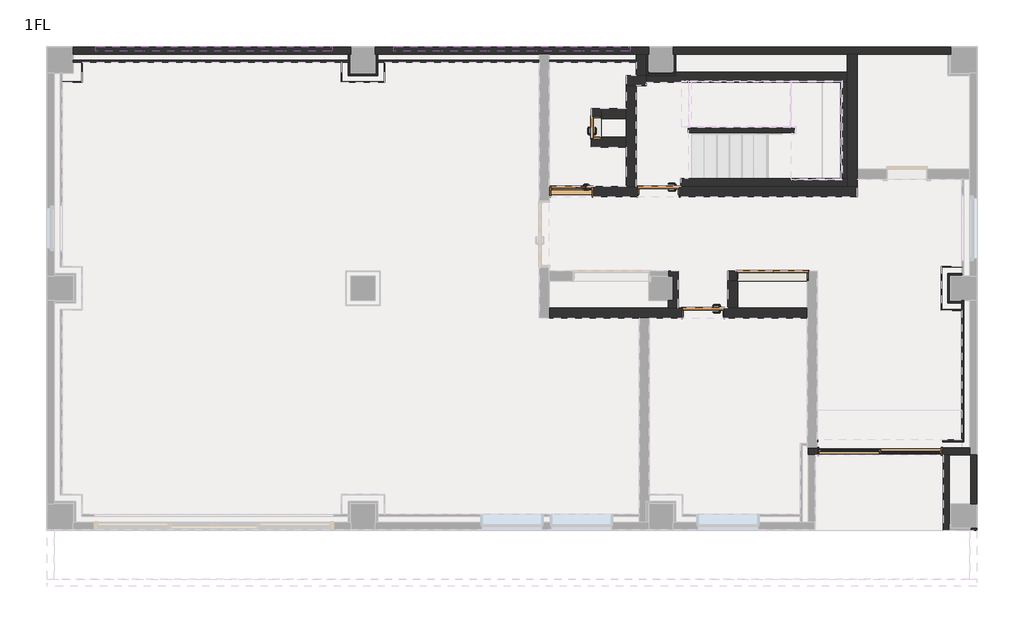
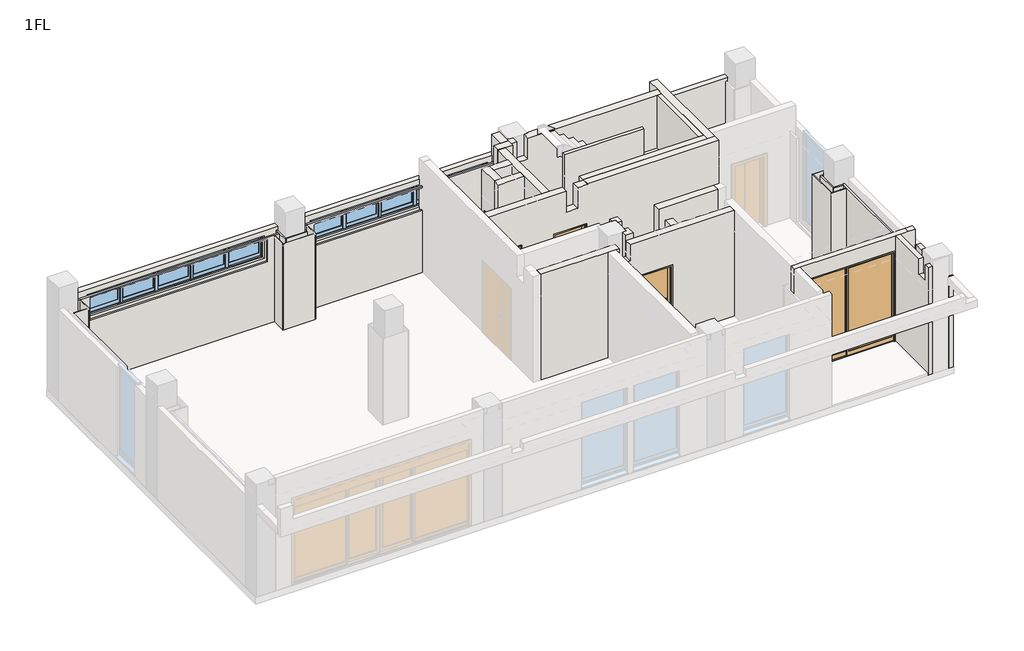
# One storey, part 2 of 3: 42 walls, 6 doors, 2 windows.
"""IFC4 building model written with IfcOpenShell, lengths in millimetres."""

from ifc_helpers import new_model, si_unit, frame, origin, place, context, project, spatial, polyline, outline, extrude, faceted_brep, transform, mapped, element, save
from components import door_bff3f04c, door_5d5221cc, door_e94faea5, door_b2e5d67d, door_75bfbb1d, window_ed3df4e0

model = new_model("IFC4")

# Units and contexts
model_context = context("Model", 3, world=origin())
ifc_project = project(units=[si_unit("LENGTHUNIT", "METRE", prefix="MILLI")], contexts=[model_context])

# Site, building, storey
site = spatial("IfcSite", under=ifc_project)
building = spatial("IfcBuilding", under=site)
storey = spatial("IfcBuildingStorey", under=building, Name="1FL", Elevation=100.0)

# Doors
placement = place(None, origin())
door_shape = door_bff3f04c(model_context)
element("IfcDoor", 1, ObjectType="140_片開扉_スリットガラリ付 : SD3_H2000W800", at=placement, inside=storey, context=model_context, shape_type="MappedRepresentation", body=[
    mapped(door_shape, transform((10290.0, 6540.0, 100.0), x_axis=(-1.0, 0.0, 0.0), y_axis=(0.0, -1.0, 0.0), z_axis=(0.0, 0.0, 1.0))),
])
door_2_shape = door_5d5221cc(model_context)
element("IfcDoor", 2, ObjectType="B1 両開 フラッシュ_A1枠 : SD6-H2000W1400", at=placement, inside=storey, context=model_context, shape_type="MappedRepresentation", body=[
    mapped(door_2_shape, transform((14340.0, 4840.0, 100.0), x_axis=(1.0, 0.0, 0.0), y_axis=(0.0, 1.0, 0.0), z_axis=(0.0, 0.0, 1.0))),
])
door_3_shape = door_e94faea5(model_context)
element("IfcDoor", 3, ObjectType="A1 片開 フラッシュ_A1枠 : SD4_H2000W800", at=placement, inside=storey, context=model_context, shape_type="MappedRepresentation", body=[
    mapped(door_3_shape, transform((12040.0, 6540.0, 100.0), x_axis=(1.0, 0.0, 0.0), y_axis=(0.0, 1.0, 0.0), z_axis=(0.0, 0.0, 1.0))),
])
door_4_shape = door_b2e5d67d(model_context)
element("IfcDoor", 4, ObjectType="A1 片開 フラッシュ_A1枠 : SD4_H2000W400", at=placement, inside=storey, context=model_context, shape_type="MappedRepresentation", body=[
    mapped(door_4_shape, transform((10790.0, 7835.0, 100.0), x_axis=(0.0, -1.0, 0.0), y_axis=(1.0, 0.0, 0.0), z_axis=(0.0, 0.0, 1.0))),
])
element("IfcDoor", 5, ObjectType="A1 片開 フラッシュ_A1枠 : SD2_H2000W800", at=placement, inside=storey, context=model_context, shape_type="MappedRepresentation", body=[
    mapped(door_3_shape, transform((12940.0, 4090.0, 100.0), x_axis=(1.0, 0.0, 0.0), y_axis=(0.0, 1.0, 0.0), z_axis=(0.0, 0.0, 1.0))),
])
door_5_shape = door_75bfbb1d(model_context)
element("IfcDoor", 6, ObjectType="C_引違扉_フラッシュ : SSD1-H2550W2470", at=placement, inside=storey, context=model_context, shape_type="MappedRepresentation", body=[
    mapped(door_5_shape, transform((16505.0, 1302.5, 100.0), x_axis=(-1.0, 0.0, 0.0), y_axis=(0.0, -1.0, 0.0), z_axis=(0.0, 0.0, 1.0))),
])

# Walls
element("IfcWall", 7, ObjectType="•_RC120+押出法ポリスチレンフォーム1種 t25", at=placement, inside=storey, context=model_context, shape_type="Brep", body=[
    faceted_brep([(17930.0, 9305.0, 50.0), (17930.0, 9305.0, 2650.0), (12340.0, 9305.0, 2650.0), (12340.0, 9305.0, 50.0), (12359.9998932, 9305.0, 50.0), (12389.9998932, 9305.0, 50.0), (15840.0, 9305.0, 50.0), (16040.0, 9305.0, 50.0), (17869.9999426, 9305.0, 50.0), (17899.9999426, 9305.0, 50.0), (17930.0, 9450.0, 2650.0), (17930.0, 9450.0, 50.0), (12340.0, 9450.0, 50.0), (12340.0, 9450.0, 2650.0)], [[[0, 1, 2, 3, 4, 5, 6, 7, 8, 9]], [[10, 11, 12, 13]], [[11, 0, 9, 8, 7, 6, 5, 4, 3, 12]], [[1, 10, 13, 2]], [[1, 0, 11, 10]], [[3, 2, 13, 12]]]),
    faceted_brep([(5840.0, 9305.0, 50.0), (5840.0, 9305.0, 2650.0), (250.0, 9305.0, 2650.0), (250.0, 9305.0, 50.0), (5789.9995306, 9305.0, 50.0), (5819.9995306, 9305.0, 50.0), (5470.0, 9305.0, 2500.0), (5470.0, 9305.0, 1865.0), (710.0, 9305.0, 1865.0), (710.0, 9305.0, 2500.0), (5840.0, 9450.0, 2650.0), (5840.0, 9450.0, 50.0), (250.0, 9450.0, 50.0), (250.0, 9450.0, 2650.0), (5470.0, 9450.0, 1830.0), (5470.0, 9450.0, 2500.0), (710.0, 9450.0, 2500.0), (710.0, 9450.0, 1830.0), (5470.0, 9370.0, 1830.0), (5470.0, 9370.0, 1865.0), (710.0, 9370.0, 1865.0), (710.0, 9370.0, 1830.0)], [[[0, 1, 2, 3, 4, 5], [6, 7, 8, 9]], [[10, 11, 12, 13], [14, 15, 16, 17]], [[11, 0, 5, 4, 3, 12]], [[1, 10, 13, 2]], [[1, 0, 11, 10]], [[15, 14, 18, 19, 7, 6]], [[8, 20, 21, 17, 16, 9]], [[7, 19, 20, 8]], [[15, 6, 9, 16]], [[18, 14, 17, 21]], [[19, 18, 21, 20]], [[3, 2, 13, 12]]]),
    faceted_brep([(6340.0, 9305.0, 2650.0), (6340.0, 9305.0, 50.0), (6359.9999426, 9305.0, 50.0), (6389.9999426, 9305.0, 50.0), (9640.0, 9305.0, 50.0), (9840.0, 9305.0, 50.0), (11590.452236, 9305.0, 50.0), (11790.452236, 9305.0, 50.0), (11820.452236, 9305.0, 50.0), (11840.0, 9305.0, 50.0), (11840.0, 9305.0, 2650.0), (11470.0, 9305.0, 2500.0), (11470.0, 9305.0, 1865.0), (6710.0, 9305.0, 1865.0), (6710.0, 9305.0, 2500.0), (6340.0, 9450.0, 50.0), (6340.0, 9450.0, 2650.0), (11840.0, 9450.0, 2650.0), (11840.0, 9450.0, 50.0), (11470.0, 9450.0, 1830.0), (11470.0, 9450.0, 2500.0), (6710.0, 9450.0, 2500.0), (6710.0, 9450.0, 1830.0), (11470.0, 9370.0, 1830.0), (11470.0, 9370.0, 1865.0), (6710.0, 9370.0, 1865.0), (6710.0, 9370.0, 1830.0)], [[[0, 1, 2, 3, 4, 5, 6, 7, 8, 9, 10], [11, 12, 13, 14]], [[15, 16, 17, 18], [19, 20, 21, 22]], [[1, 15, 18, 9, 8, 7, 6, 5, 4, 3, 2]], [[16, 0, 10, 17]], [[20, 19, 23, 24, 12, 11]], [[13, 25, 26, 22, 21, 14]], [[12, 24, 25, 13]], [[20, 11, 14, 21]], [[23, 19, 22, 26]], [[24, 23, 26, 25]], [[1, 0, 16, 15]], [[10, 9, 18, 17]]]),
])
element("IfcWall", 8, ObjectType="•_RC120+押出法ポリスチレンフォーム1種 t25", at=placement, inside=storey, context=model_context, shape_type="Brep", body=[
    faceted_brep([(18305.0, 1375.0, 50.0), (15240.0, 1375.0, 50.0), (15055.0, 1375.0, 50.0), (15055.0, 1375.0, 3100.0), (15240.0, 1375.0, 3100.0), (18125.0, 1375.0, 3100.0), (18305.0, 1375.0, 3100.0), (17765.0, 1375.0, 2675.0), (15245.0, 1375.0, 2675.0), (15245.0, 1375.0, 85.0), (17765.0, 1375.0, 85.0), (18305.0, 1230.0, 50.0), (18305.0, 1230.0, 2650.0), (18305.0, 1230.0, 3100.0), (18125.0, 1230.0, 3100.0), (17900.0, 1230.0, 3100.0), (17780.0, 1230.0, 3100.0), (15200.0, 1230.0, 3100.0), (15055.0, 1230.0, 3100.0), (15055.0, 1230.0, 50.0), (15200.0, 1230.0, 50.0), (17780.0, 1230.0, 50.0), (17900.0, 1230.0, 50.0), (17765.0, 1230.0, 2675.0), (17765.0, 1230.0, 85.0), (15245.0, 1230.0, 85.0), (15245.0, 1230.0, 2675.0)], [[[0, 1, 2, 3, 4, 5, 6], [7, 8, 9, 10]], [[11, 12, 13, 14, 15, 16, 17, 18, 19, 20, 21, 22], [23, 24, 25, 26]], [[2, 1, 0, 11, 22, 21, 20, 19]], [[0, 6, 13, 12, 11]], [[3, 2, 19, 18]], [[6, 5, 14, 13]], [[5, 4, 3, 18, 17, 16, 15, 14]], [[24, 23, 7, 10]], [[25, 24, 10, 9]], [[26, 25, 9, 8]], [[23, 26, 8, 7]]]),
])
element("IfcWall", 9, ObjectType="•ALC100+20", at=placement, inside=storey, context=model_context, shape_type="Brep", body=[
    faceted_brep([(18330.0, 1230.0, 2650.0), (18330.0, 1230.0, 50.0), (18330.0, 250.0, 50.0), (18330.0, 250.0, 2650.0), (18450.0, 1230.0, 50.0), (18450.0, 1230.0, 2650.0), (18450.0, 250.0, 2650.0), (18450.0, 250.0, 50.0)], [[[0, 1, 2, 3]], [[4, 5, 6, 7]], [[1, 4, 7, 2]], [[5, 0, 3, 6]], [[1, 0, 5, 4]], [[3, 2, 7, 6]]]),
    faceted_brep([(18330.0, -284.9999682, 50.0), (18330.0, -284.9999682, 2650.0), (18330.0, -250.0, 2650.0), (18330.0, -250.0, 50.0), (18450.0, -284.9999682, 2650.0), (18450.0, -284.9999682, 2450.0), (18450.0, -284.9999682, 50.0), (18450.0, -250.0, 50.0), (18450.0, -250.0, 2650.0)], [[[0, 1, 2, 3]], [[4, 5, 6, 7, 8]], [[6, 0, 3, 7]], [[1, 4, 8, 2]], [[0, 6, 5, 4, 1]], [[3, 2, 8, 7]]]),
])
element("IfcWall", 10, ObjectType="•ALC100+20", at=placement, inside=storey, context=model_context, shape_type="Brep", body=[
    faceted_brep([(17780.0, 1230.0, 50.0), (17780.0, -284.9999682, 50.0), (17780.0, -284.9999682, 3100.0), (17780.0, -150.0, 3100.0), (17780.0, -150.0, 2650.0), (17780.0, 150.0, 2650.0), (17780.0, 150.0, 3100.0), (17780.0, 1230.0, 3100.0), (17900.0, -284.9999682, 50.0), (17900.0, -164.9999682, 50.0), (17900.0, 1230.0, 50.0), (17900.0, 1230.0, 3100.0), (17900.0, 150.0, 3100.0), (17900.0, 150.0, 2650.0), (17900.0, -150.0, 2650.0), (17900.0, -150.0, 3100.0), (17900.0, -284.9999682, 3100.0)], [[[0, 1, 2, 3, 4, 5, 6, 7]], [[8, 9, 10, 11, 12, 13, 14, 15, 16]], [[1, 0, 10, 9, 8]], [[11, 7, 6, 12]], [[2, 16, 15, 3]], [[0, 7, 11, 10]], [[2, 1, 8, 16]], [[5, 13, 12, 6]], [[14, 4, 3, 15]], [[13, 5, 4, 14]]]),
])
element("IfcWall", 11, ObjectType="•RC30+12.5", at=placement, inside=storey, context=model_context, shape_type="Brep", body=[
    faceted_brep([(250.0, 9147.5, 50.0), (426.0, 9147.5, 50.0), (438.5, 9147.5, 50.0), (5651.5, 9147.5, 50.0), (5664.0, 9147.5, 50.0), (5790.0000498, 9147.5, 50.0), (5790.0000498, 9147.5, 2550.0), (5664.0, 9147.5, 2550.0), (5651.5, 9147.5, 2550.0), (438.5, 9147.5, 2550.0), (426.0, 9147.5, 2550.0), (250.0, 9147.5, 2550.0), (5470.0, 9147.5, 2500.0), (5470.0, 9147.5, 1865.0), (710.0, 9147.5, 1865.0), (710.0, 9147.5, 2500.0), (5789.9999097, 9190.0, 50.0), (250.0, 9190.0, 50.0), (250.0, 9190.0, 2550.0), (5789.9999097, 9190.0, 2550.0), (5470.0, 9190.0, 1865.0), (5470.0, 9190.0, 2500.0), (710.0, 9190.0, 2500.0), (710.0, 9190.0, 1865.0)], [[[0, 1, 2, 3, 4, 5, 6, 7, 8, 9, 10, 11], [12, 13, 14, 15]], [[16, 17, 18, 19], [20, 21, 22, 23]], [[5, 4, 3, 2, 1, 0, 17, 16]], [[11, 10, 9, 8, 7, 6, 19, 18]], [[0, 11, 18, 17]], [[6, 5, 16, 19]], [[12, 21, 20, 13]], [[14, 23, 22, 15]], [[13, 20, 23, 14]], [[21, 12, 15, 22]]]),
])
element("IfcWall", 12, ObjectType="•RC30+12.5", at=placement, inside=storey, context=model_context, shape_type="Brep", body=[
    faceted_brep([(6389.9999426, 9147.5, 50.0), (6516.0000044, 9147.5, 50.0), (6528.5000044, 9147.5, 50.0), (9640.0, 9147.5, 50.0), (9640.0, 9147.5, 1865.0), (6710.0, 9147.5, 1865.0), (6710.0, 9147.5, 2500.0), (9640.0, 9147.5, 2500.0), (9640.0, 9147.5, 2550.0), (6528.5000044, 9147.5, 2550.0), (6516.0000044, 9147.5, 2550.0), (6389.9999426, 9147.5, 2550.0), (9640.0, 9190.0, 50.0), (6389.9999426, 9190.0, 50.0), (6389.9999426, 9190.0, 2550.0), (9640.0, 9190.0, 2550.0), (9640.0, 9190.0, 2500.0), (6710.0, 9190.0, 2500.0), (6710.0, 9190.0, 1865.0), (9640.0, 9190.0, 1865.0)], [[[0, 1, 2, 3, 4, 5, 6, 7, 8, 9, 10, 11]], [[12, 13, 14, 15, 16, 17, 18, 19]], [[3, 2, 1, 0, 13, 12]], [[11, 10, 9, 8, 15, 14]], [[15, 8, 7, 16]], [[3, 12, 19, 4]], [[0, 11, 14, 13]], [[5, 18, 17, 6]], [[18, 5, 4, 19]], [[6, 17, 16, 7]]]),
])
element("IfcWall", 13, ObjectType="•RC30+12.5", at=placement, inside=storey, context=model_context, shape_type="Brep", body=[
    faceted_brep([(18147.5, 4339.9999905, 50.0), (18147.5, 4320.0000823, 50.0), (18147.5, 4290.0000823, 50.0), (18147.5, 4160.0, 50.0), (18147.5, 4147.5, 50.0), (18147.5, 1532.5, 50.0), (18147.5, 1490.0, 50.0), (18147.5, 1490.0, 2550.0), (18147.5, 1532.5, 2550.0), (18147.5, 4147.5, 2550.0), (18147.5, 4160.0, 2550.0), (18147.5, 4290.0000823, 2550.0), (18147.5, 4320.0000823, 2550.0), (18147.5, 4339.9999905, 2550.0), (18190.0, 4339.9999905, 50.0), (18190.0, 4339.9999905, 2550.0), (18190.0, 1490.0, 2550.0), (18190.0, 1490.0, 50.0)], [[[0, 1, 2, 3, 4, 5, 6, 7, 8, 9, 10, 11, 12, 13]], [[14, 15, 16, 17]], [[6, 5, 4, 3, 2, 1, 0, 14, 17]], [[13, 12, 11, 10, 9, 8, 7, 16, 15]], [[0, 13, 15, 14]], [[7, 6, 17, 16]]]),
])
element("IfcWall", 14, ObjectType="•RC30+12.5", at=placement, inside=storey, context=model_context, shape_type="SweptSolid", body=[
    extrude(outline(polyline([(50.0, 15240.0), (50.0, 18147.5), (2550.0, 18147.5), (2550.0, 17765.0), (85.0, 17765.0), (85.0, 15245.0), (2550.0, 15245.0), (2550.0, 15240.0), (50.0, 15240.0)])), frame((0.0, 1490.0, 0.0), z_axis=(0.0, 1.0, 0.0), x_axis=(0.0, 0.0, 1.0)), (0.0, 0.0, 1.0), 42.5),
])
element("IfcWall", 15, ObjectType="•RC200", at=placement, inside=storey, context=model_context, shape_type="Brep", body=[
    faceted_brep([(12440.0, 4190.0, 50.0), (12440.0, 4939.9999966, 50.0), (12440.0, 4939.9999966, 3250.0), (12440.0, 4740.0, 3250.0), (12440.0, 4740.0, 2650.0), (12440.0, 4440.0, 2650.0), (12440.0, 4440.0, 3250.0), (12440.0, 4190.0, 3250.0), (12240.0, 4939.9999966, 3250.0), (12240.0, 4939.9999966, 2650.0), (12240.0, 4939.9999966, 50.0), (12240.0, 4840.0, 50.0), (12240.0, 4840.0, 2650.0), (12240.0, 4840.0, 3250.0), (12240.0, 4190.0, 3250.0), (12240.0, 4340.0, 3250.0), (12240.0, 4340.0, 50.0), (12240.0, 4190.0, 50.0), (12240.0, 4190.0, 2650.0), (12240.0, 4190.0, 3100.0), (12340.0, 4340.0, 50.0), (12340.0, 4840.0, 50.0), (12340.0, 4840.0, 3250.0), (12340.0, 4740.0, 3250.0), (12340.0, 4440.0, 3250.0), (12340.0, 4340.0, 3250.0), (12340.0, 4440.0, 2650.0), (12340.0, 4740.0, 2650.0)], [[[0, 1, 2, 3, 4, 5, 6, 7]], [[8, 9, 10, 11, 12, 13]], [[14, 15, 16, 17, 18, 19]], [[1, 0, 17, 16, 20, 21, 11, 10]], [[2, 8, 13, 22, 23, 3]], [[15, 14, 7, 6, 24, 25]], [[2, 1, 10, 9, 8]], [[21, 22, 13, 12, 11]], [[25, 20, 16, 15]], [[22, 21, 20, 25, 24, 26, 27, 23]], [[0, 7, 14, 19, 18, 17]], [[27, 4, 3, 23]], [[5, 26, 24, 6]], [[4, 27, 26, 5]]]),
])
element("IfcWall", 16, ObjectType="•RC200", at=placement, inside=storey, context=model_context, shape_type="Brep", body=[
    faceted_brep([(13367.5, 3990.0, 2127.5), (13367.5, 3990.0, 100.0), (13380.0, 3990.0, 100.0), (13380.0, 3990.0, 50.0), (15040.0, 3990.0, 50.0), (15040.0, 3990.0, 100.0), (15040.0, 3990.0, 3100.0), (12240.0, 3990.0, 3100.0), (12240.0, 3990.0, 2650.0), (11940.0, 3990.0, 2650.0), (11940.0, 3990.0, 3100.0), (11849.9999991, 3990.0, 3100.0), (11649.9999991, 3990.0, 3100.0), (9840.0, 3990.0, 3100.0), (9840.0, 3990.0, 50.0), (11649.9999991, 3990.0, 50.0), (11849.9999991, 3990.0, 50.0), (12500.0, 3990.0, 50.0), (12500.0, 3990.0, 100.0), (12512.5, 3990.0, 100.0), (12512.5, 3990.0, 2127.5), (13367.5, 4190.0, 100.0), (13367.5, 4190.0, 2127.5), (12512.5, 4190.0, 2127.5), (12512.5, 4190.0, 100.0), (12500.0, 4190.0, 100.0), (12500.0, 4190.0, 50.0), (12440.0, 4190.0, 50.0), (12240.0, 4190.0, 50.0), (9840.0, 4190.0, 50.0), (9840.0, 4190.0, 3100.0), (11940.0, 4190.0, 3100.0), (11940.0, 4190.0, 2650.0), (12240.0, 4190.0, 2650.0), (12240.0, 4190.0, 3100.0), (13440.0, 4190.0, 3100.0), (13640.0, 4190.0, 3100.0), (15040.0, 4190.0, 3100.0), (15040.0, 4190.0, 50.0), (13640.0, 4190.0, 50.0), (13440.0, 4190.0, 50.0), (13380.0, 4190.0, 50.0), (13380.0, 4190.0, 100.0)], [[[0, 1, 2, 3, 4, 5, 6, 7, 8, 9, 10, 11, 12, 13, 14, 15, 16, 17, 18, 19, 20]], [[21, 22, 23, 24, 25, 26, 27, 28, 29, 30, 31, 32, 33, 34, 35, 36, 37, 38, 39, 40, 41, 42]], [[14, 29, 28, 27, 26, 17, 16, 15]], [[38, 4, 3, 41, 40, 39]], [[29, 14, 13, 30]], [[4, 38, 37, 6, 5]], [[1, 0, 22, 21]], [[20, 19, 24, 23]], [[0, 20, 23, 22]], [[18, 25, 24, 19]], [[42, 2, 1, 21]], [[25, 18, 17, 26]], [[2, 42, 41, 3]], [[9, 32, 31, 10]], [[33, 8, 7, 34]], [[32, 9, 8, 33]], [[7, 6, 37, 36, 35, 34]], [[13, 12, 11, 10, 31, 30]]]),
])
element("IfcWall", 17, ObjectType="•RC200", at=placement, inside=storey, context=model_context, shape_type="Brep", body=[
    faceted_brep([(15040.0, 4940.0, 50.0), (13440.0, 4940.0, 50.0), (13440.0, 4940.0, 3240.0), (15040.0, 4940.0, 3240.0), (15040.0, 4940.0, 2127.5), (13612.5, 4940.0, 2127.5), (13612.5, 4940.0, 100.0), (15040.0, 4940.0, 100.0), (13440.0, 4740.0, 50.0), (13640.0, 4740.0, 50.0), (15040.0, 4740.0, 50.0), (15040.0, 4740.0, 100.0), (13612.5, 4740.0, 100.0), (13612.5, 4740.0, 2127.5), (15040.0, 4740.0, 2127.5), (15040.0, 4740.0, 2650.0), (15040.0, 4740.0, 3240.0), (13440.0, 4740.0, 3240.0), (13440.0, 4740.0, 2650.0)], [[[0, 1, 2, 3, 4, 5, 6, 7]], [[8, 9, 10, 11, 12, 13, 14, 15, 16, 17, 18]], [[1, 0, 10, 9, 8]], [[3, 2, 17, 16]], [[3, 16, 15, 14, 4]], [[10, 0, 7, 11]], [[2, 1, 8, 18, 17]], [[6, 12, 11, 7]], [[12, 6, 5, 13]], [[13, 5, 4, 14]]]),
])
element("IfcWall", 18, ObjectType="•RC200", at=placement, inside=storey, context=model_context, shape_type="SweptSolid", body=[
    extrude(outline(polyline([(4740.0, 50.0), (4190.0, 50.0), (4190.0, 3100.0), (4440.0, 3100.0), (4440.0, 2650.0), (4740.0, 2650.0), (4740.0, 50.0)])), frame((13440.0, 0.0, 0.0), z_axis=(1.0, 0.0, 0.0), x_axis=(0.0, 1.0, 0.0)), (0.0, 0.0, 1.0), 200.0),
])
element("IfcWall", 19, ObjectType="•RC200", at=placement, inside=storey, context=model_context, shape_type="Brep", body=[
    faceted_brep([(9850.0, 6440.0, 2140.0), (10730.0, 6440.0, 2140.0), (10730.0, 6440.0, 100.0), (10730.0, 6440.0, 85.0), (10705.0, 6440.0, 85.0), (10705.0, 6440.0, 50.0), (11625.0, 6440.0, 50.0), (11625.0, 6440.0, 100.0), (11612.5, 6440.0, 100.0), (11612.5, 6440.0, 2127.5), (12467.5, 6440.0, 2127.5), (12467.5, 6440.0, 100.0), (12455.0, 6440.0, 100.0), (12455.0, 6440.0, 50.0), (16040.0, 6440.0, 50.0), (16040.0, 6440.0, 100.0), (16040.0, 6440.0, 3240.0), (16040.0, 6440.0, 3250.0), (12512.5, 6440.0, 3250.0), (12512.5, 6440.0, 3240.0), (12240.0, 6440.0, 3240.0), (12240.0, 6440.0, 2650.0), (11940.0, 6440.0, 2650.0), (11940.0, 6440.0, 3240.0), (9840.0, 6440.0, 3240.0), (9840.0, 6440.0, 100.0), (9850.0, 6440.0, 100.0), (16040.0, 6640.0, 50.0), (15840.0, 6640.0, 50.0), (11590.0000045, 6640.0, 50.0), (11390.0000045, 6640.0, 50.0), (9840.0, 6640.0, 50.0), (9840.0, 6640.0, 3240.0), (11390.0000045, 6640.0, 3240.0), (11590.0000045, 6640.0, 3240.0), (11940.0, 6640.0, 3240.0), (11940.0, 6640.0, 2650.0), (12240.0, 6640.0, 2650.0), (12240.0, 6640.0, 3240.0), (12512.5, 6640.0, 3240.0), (12512.5, 6640.0, 3250.0), (15840.0, 6640.0, 3250.0), (16040.0, 6640.0, 3250.0), (16040.0, 6640.0, 3240.0), (16040.0, 6640.0, 100.0), (10730.0, 6640.0, 85.0), (10730.0, 6640.0, 2140.0), (9850.0, 6640.0, 2140.0), (9850.0, 6640.0, 85.0), (12467.5, 6640.0, 100.0), (12467.5, 6640.0, 2127.5), (11612.5, 6640.0, 2127.5), (11612.5, 6640.0, 100.0), (12455.0, 6475.0, 50.0), (12440.0, 6475.0, 50.0), (12440.0, 6605.0, 50.0), (11640.0, 6605.0, 50.0), (11640.0, 6475.0, 50.0), (11625.0, 6475.0, 50.0), (10705.0, 6480.0, 50.0), (9840.0, 6480.0, 50.0), (9840.0, 6480.0, 100.0), (9850.0, 6480.0, 85.0), (10705.0, 6480.0, 85.0), (9850.0, 6480.0, 100.0), (11625.0, 6475.0, 100.0), (11640.0, 6475.0, 100.0), (11640.0, 6605.0, 100.0), (12440.0, 6605.0, 100.0), (12440.0, 6475.0, 100.0), (12455.0, 6475.0, 100.0)], [[[0, 1, 2, 3, 4, 5, 6, 7, 8, 9, 10, 11, 12, 13, 14, 15, 16, 17, 18, 19, 20, 21, 22, 23, 24, 25, 26]], [[27, 28, 29, 30, 31, 32, 33, 34, 35, 36, 37, 38, 39, 40, 41, 42, 43, 44], [45, 46, 47, 48], [49, 50, 51, 52]], [[31, 30, 29, 28, 27, 14, 13, 53, 54, 55, 56, 57, 58, 6, 5, 59, 60]], [[17, 42, 41, 40, 18]], [[14, 27, 44, 43, 42, 17, 16, 15]], [[60, 61, 25, 24, 32, 31]], [[46, 45, 3, 2, 1]], [[45, 48, 62, 63, 4, 3]], [[48, 47, 0, 26, 64, 62]], [[1, 0, 47, 46]], [[11, 10, 50, 49]], [[49, 52, 8, 7, 65, 66, 67, 68, 69, 70, 12, 11]], [[9, 8, 52, 51]], [[10, 9, 51, 50]], [[61, 64, 26, 25]], [[64, 61, 60, 59, 63, 62]], [[58, 65, 7, 6]], [[65, 58, 57, 66]], [[66, 57, 56, 67]], [[67, 56, 55, 68]], [[68, 55, 54, 69]], [[69, 54, 53, 70]], [[70, 53, 13, 12]], [[63, 59, 5, 4]], [[22, 36, 35, 23]], [[37, 21, 20, 38]], [[36, 22, 21, 37]], [[24, 23, 35, 34, 33, 32]], [[19, 39, 38, 20]], [[39, 19, 18, 40]]]),
])
element("IfcWall", 20, ObjectType="•RC200", at=placement, inside=storey, context=model_context, shape_type="Brep", body=[
    faceted_brep([(16040.0, 6640.0, 50.0), (16040.0, 6790.0000027, 50.0), (16040.0, 6990.0000027, 50.0), (16040.0, 9305.0, 50.0), (16040.0, 9305.0, 3250.0), (16040.0, 6640.0, 3250.0), (15840.0, 6640.0, 50.0), (15840.0, 6640.0, 3250.0), (15840.0, 6804.5, 3250.0), (15840.0, 8747.5, 3250.0), (15840.0, 8947.5, 3250.0), (15840.0, 9305.0, 3250.0), (15840.0, 9305.0, 50.0), (15840.0, 8947.5, 50.0), (15840.0, 8747.5, 50.0), (15840.0, 6804.5, 50.0)], [[[0, 1, 2, 3, 4, 5]], [[6, 7, 8, 9, 10, 11, 12, 13, 14, 15]], [[3, 2, 1, 0, 6, 15, 14, 13, 12]], [[5, 4, 11, 10, 9, 8, 7]], [[0, 5, 7, 6]], [[4, 3, 12, 11]]]),
])
element("IfcWall", 21, ObjectType="•RC200", at=placement, inside=storey, context=model_context, shape_type="Brep", body=[
    faceted_brep([(11590.0000045, 6640.0, 50.0), (11590.0000045, 8680.0, 50.0), (11590.0000045, 8680.0, 3240.0), (11590.0000045, 6640.0, 3240.0), (11390.0000045, 8680.0, 50.0), (11390.0000045, 8210.0, 50.0), (11390.0000045, 8010.0, 50.0), (11390.0000045, 7640.0, 50.0), (11390.0000045, 7440.0, 50.0), (11390.0000045, 6640.0, 50.0), (11390.0000045, 6640.0, 3240.0), (11390.0000045, 8680.0, 3240.0)], [[[0, 1, 2, 3]], [[4, 5, 6, 7, 8, 9, 10, 11]], [[1, 0, 9, 8, 7, 6, 5, 4]], [[9, 0, 3, 10]], [[1, 4, 11, 2]], [[3, 2, 11, 10]]]),
])
element("IfcWall", 22, ObjectType="•RC200", at=placement, inside=storey, context=model_context, shape_type="Brep", body=[
    faceted_brep([(11390.0000045, 8680.0, 50.0), (11590.0000045, 8680.0, 50.0), (11790.452236, 8680.0, 50.0), (11790.452236, 8680.0, 3250.0), (11390.0000045, 8680.0, 3250.0), (11390.0000045, 8680.0, 3240.0), (11390.0000045, 8880.0, 50.0), (11390.0000045, 8880.0, 3250.0), (11590.452236, 8880.0, 3250.0), (11790.452236, 8880.0, 3250.0), (11790.452236, 8880.0, 50.0), (11590.452236, 8880.0, 50.0), (11790.452236, 8747.5, 50.0), (11790.452236, 8747.5, 3250.0)], [[[0, 1, 2, 3, 4, 5]], [[6, 7, 8, 9, 10, 11]], [[2, 1, 0, 6, 11, 10, 12]], [[4, 3, 13, 9, 8, 7]], [[0, 5, 4, 7, 6]], [[3, 2, 12, 10, 9, 13]]]),
])
element("IfcWall", 23, ObjectType="•t=30mm", at=placement, inside=storey, context=model_context, shape_type="Brep", body=[
    faceted_brep([(11790.452236, 9305.0, 50.0), (11790.452236, 8880.0001317, 50.0), (11790.452236, 8880.0001317, 2550.0), (11790.452236, 9305.0, 2550.0), (11820.452236, 9305.0, 50.0), (11820.452236, 9305.0, 2550.0), (11820.452236, 8910.0001317, 2550.0), (11820.452236, 8880.0001317, 2550.0), (11820.452236, 8880.0001317, 50.0), (11820.452236, 8910.0001317, 50.0)], [[[0, 1, 2, 3]], [[4, 5, 6, 7, 8, 9]], [[1, 0, 4, 9, 8]], [[3, 2, 7, 6, 5]], [[2, 1, 8, 7]], [[0, 3, 5, 4]]]),
])
element("IfcWall", 24, ObjectType="•t=30mm", at=placement, inside=storey, context=model_context, shape_type="Brep", body=[
    faceted_brep([(11820.452236, 8880.0001317, 50.0), (12389.9998932, 8880.0001317, 50.0), (12389.9998932, 8880.0001317, 2550.0), (11820.452236, 8880.0001317, 2550.0), (11820.452236, 8910.0001317, 50.0), (11820.452236, 8910.0001317, 2550.0), (12359.9998932, 8910.0001317, 2550.0), (12389.9998932, 8910.0001317, 2550.0), (12389.9998932, 8910.0001317, 50.0), (12359.9998932, 8910.0001317, 50.0)], [[[0, 1, 2, 3]], [[4, 5, 6, 7, 8, 9]], [[1, 0, 4, 9, 8]], [[3, 2, 7, 6, 5]], [[0, 3, 5, 4]], [[2, 1, 8, 7]]]),
])
element("IfcWall", 25, ObjectType="•t=30mm", at=placement, inside=storey, context=model_context, shape_type="Brep", body=[
    faceted_brep([(12389.9998932, 8910.0001317, 50.0), (12389.9998932, 8947.5, 50.0), (12389.9998932, 9305.0, 50.0), (12389.9998932, 9305.0, 2550.0), (12389.9998932, 8947.5, 2550.0), (12389.9998932, 8910.0001317, 2550.0), (12359.9998932, 8910.0001317, 50.0), (12359.9998932, 8910.0001317, 2550.0), (12359.9998932, 8947.5, 2550.0), (12359.9998932, 9305.0, 2550.0), (12359.9998932, 9305.0, 50.0), (12359.9998932, 8947.5, 50.0)], [[[0, 1, 2, 3, 4, 5]], [[6, 7, 8, 9, 10, 11]], [[2, 1, 0, 6, 11, 10]], [[5, 4, 3, 9, 8, 7]], [[0, 5, 7, 6]], [[3, 2, 10, 9]]]),
])
element("IfcWall", 26, ObjectType="•RC200", at=placement, inside=storey, context=model_context, shape_type="Brep", body=[
    faceted_brep([(11790.452236, 8880.0, 50.0), (11790.452236, 8947.5, 50.0), (11790.452236, 9305.0, 50.0), (11790.452236, 9305.0, 3250.0), (11790.452236, 8947.5, 3250.0), (11790.452236, 8880.0, 3250.0), (11590.452236, 8880.0, 50.0), (11590.452236, 8880.0, 3250.0), (11590.452236, 9305.0, 3250.0), (11590.452236, 9305.0, 50.0), (11590.452236, 9190.0, 50.0), (11590.452236, 9147.5, 50.0)], [[[0, 1, 2, 3, 4, 5]], [[6, 7, 8, 9, 10, 11]], [[2, 1, 0, 6, 11, 10, 9]], [[5, 4, 3, 8, 7]], [[0, 5, 7, 6]], [[3, 2, 9, 8]]]),
])
element("IfcWall", 27, ObjectType="•RC30+12.5", at=placement, inside=storey, context=model_context, shape_type="SweptSolid", body=[
    extrude(outline(polyline([(9840.0, 9147.5), (9840.0, 9190.0), (11590.452236, 9190.0), (11590.452236, 9147.5), (9840.0, 9147.5)])), frame((0.0, 0.0, 50.0), z_axis=(0.0, 0.0, 1.0), x_axis=(1.0, 0.0, 0.0)), (0.0, 0.0, 1.0), 2500.0),
])
element("IfcWall", 28, ObjectType="•t=30mm", at=placement, inside=storey, context=model_context, shape_type="Brep", body=[
    faceted_brep([(5789.9995306, 9305.0, 50.0), (5789.9999097, 9190.0, 50.0), (5790.0000498, 9147.5, 50.0), (5790.0009316, 8880.0001317, 50.0), (5790.0009316, 8880.0001317, 2550.0), (5790.0000498, 9147.5, 2550.0), (5789.9999097, 9190.0, 2550.0), (5789.9995306, 9305.0, 2550.0), (5819.9995306, 9305.0, 50.0), (5819.9995306, 9305.0, 2550.0), (5820.0008327, 8910.0001292, 2550.0), (5820.0009316, 8880.0001292, 2550.0), (5820.0009316, 8880.0001292, 50.0), (5820.0008327, 8910.0001292, 50.0)], [[[0, 1, 2, 3, 4, 5, 6, 7]], [[8, 9, 10, 11, 12, 13]], [[3, 2, 1, 0, 8, 13, 12]], [[7, 6, 5, 4, 11, 10, 9]], [[0, 7, 9, 8]], [[4, 3, 12, 11]]]),
])
element("IfcWall", 29, ObjectType="•t=30mm", at=placement, inside=storey, context=model_context, shape_type="Brep", body=[
    faceted_brep([(5820.0009316, 8880.0001292, 50.0), (6389.9999426, 8880.0000823, 50.0), (6389.9999426, 8880.0000823, 2550.0), (5820.0009316, 8880.0001292, 2550.0), (5820.0008327, 8910.0001292, 50.0), (5820.0008327, 8910.0001292, 2550.0), (6359.9999426, 8910.0000847, 2550.0), (6389.9999426, 8910.0000823, 2550.0), (6389.9999426, 8910.0000823, 50.0), (6359.9999426, 8910.0000847, 50.0)], [[[0, 1, 2, 3]], [[4, 5, 6, 7, 8, 9]], [[1, 0, 4, 9, 8]], [[3, 2, 7, 6, 5]], [[0, 3, 5, 4]], [[2, 1, 8, 7]]]),
])
element("IfcWall", 30, ObjectType="•t=30mm", at=placement, inside=storey, context=model_context, shape_type="Brep", body=[
    faceted_brep([(6389.9999426, 8910.0000823, 50.0), (6389.9999426, 9147.5, 50.0), (6389.9999426, 9190.0, 50.0), (6389.9999426, 9305.0, 50.0), (6389.9999426, 9305.0, 2550.0), (6389.9999426, 9190.0, 2550.0), (6389.9999426, 9147.5, 2550.0), (6389.9999426, 8910.0000823, 2550.0), (6359.9999426, 8910.0000847, 50.0), (6359.9999426, 8910.0000847, 2550.0), (6359.9999426, 9305.0, 2550.0), (6359.9999426, 9305.0, 50.0)], [[[0, 1, 2, 3, 4, 5, 6, 7]], [[8, 9, 10, 11]], [[3, 2, 1, 0, 8, 11]], [[7, 6, 5, 4, 10, 9]], [[0, 7, 9, 8]], [[4, 3, 11, 10]]]),
])
element("IfcWall", 31, ObjectType="•PB12.5", at=placement, inside=storey, context=model_context, shape_type="Brep", body=[
    faceted_brep([(6516.0000044, 9147.5, 50.0), (6516.0000044, 8754.0, 50.0), (6516.0000044, 8741.5, 50.0), (6516.0000044, 8741.5, 2550.0), (6516.0000044, 8754.0, 2550.0), (6516.0000044, 9147.5, 2550.0), (6528.5000044, 9147.5, 50.0), (6528.5000044, 9147.5, 2550.0), (6528.5000044, 8741.5, 2550.0), (6528.5000044, 8741.5, 50.0)], [[[0, 1, 2, 3, 4, 5]], [[6, 7, 8, 9]], [[2, 1, 0, 6, 9]], [[5, 4, 3, 8, 7]], [[0, 5, 7, 6]], [[3, 2, 9, 8]]]),
])
element("IfcWall", 32, ObjectType="•PB12.5", at=placement, inside=storey, context=model_context, shape_type="SweptSolid", body=[
    extrude(outline(polyline([(5664.0, 8754.0), (6516.0000044, 8754.0), (6516.0000044, 8741.5), (5664.0, 8741.5), (5664.0, 8754.0)])), frame((0.0, 0.0, 50.0), z_axis=(0.0, 0.0, 1.0), x_axis=(1.0, 0.0, 0.0)), (0.0, 0.0, 1.0), 2500.0),
])
element("IfcWall", 33, ObjectType="•PB12.5", at=placement, inside=storey, context=model_context, shape_type="Brep", body=[
    faceted_brep([(5664.0, 8741.5, 50.0), (5664.0, 8754.0, 50.0), (5664.0, 9147.5, 50.0), (5664.0, 9147.5, 2550.0), (5664.0, 8754.0, 2550.0), (5664.0, 8741.5, 2550.0), (5651.5, 8741.5, 50.0), (5651.5, 8741.5, 2550.0), (5651.5, 9147.5, 2550.0), (5651.5, 9147.5, 50.0)], [[[0, 1, 2, 3, 4, 5]], [[6, 7, 8, 9]], [[2, 1, 0, 6, 9]], [[5, 4, 3, 8, 7]], [[0, 5, 7, 6]], [[3, 2, 9, 8]]]),
])
element("IfcWall", 34, ObjectType="•RC200", at=placement, inside=storey, context=model_context, shape_type="Brep", body=[
    faceted_brep([(11790.452236, 8947.5, 50.0), (11790.452236, 8947.5, 3250.0), (11840.0, 8947.5, 3250.0), (11840.0, 8947.5, 50.0), (15840.0, 8947.5, 50.0), (12389.9998932, 8947.5, 50.0), (12389.9998932, 8947.5, 2550.0), (12359.9998932, 8947.5, 2550.0), (12359.9998932, 8947.5, 50.0), (12340.0, 8947.5, 50.0), (12340.0, 8947.5, 3250.0), (12364.9999035, 8947.5, 3250.0), (12512.5, 8947.5, 3250.0), (15840.0, 8947.5, 3250.0), (11790.452236, 8747.5, 50.0), (15840.0, 8747.5, 50.0), (15840.0, 8747.5, 100.0), (15840.0, 8747.5, 3250.0), (15710.0, 8747.5, 3250.0), (12512.5, 8747.5, 3250.0), (12240.0, 8747.5, 3250.0), (12240.0, 8747.5, 2650.0), (11940.0, 8747.5, 2650.0), (11940.0, 8747.5, 3250.0), (11790.452236, 8747.5, 3250.0), (11790.452236, 8880.0, 50.0), (11840.0, 8930.0, 50.0), (12340.0, 8930.0, 50.0), (12359.9998932, 8910.0001317, 50.0), (12389.9998932, 8910.0001317, 50.0), (11790.452236, 8880.0, 3250.0), (11940.0, 8930.0, 3250.0), (11840.0, 8930.0, 3250.0), (12340.0, 8930.0, 3250.0), (12240.0, 8930.0, 3250.0), (12389.9998932, 8910.0001317, 2550.0), (12359.9998932, 8910.0001317, 2550.0), (11940.0, 8930.0, 2650.0), (12240.0, 8930.0, 2650.0)], [[[0, 1, 2, 3]], [[4, 5, 6, 7, 8, 9, 10, 11, 12, 13]], [[14, 15, 16, 17, 18, 19, 20, 21, 22, 23, 24]], [[15, 14, 25, 0, 3, 26, 27, 9, 8, 28, 29, 5, 4]], [[1, 30, 24, 23, 31, 32, 2]], [[17, 13, 12, 11, 10, 33, 34, 20, 19, 18]], [[0, 25, 14, 24, 30, 1]], [[29, 35, 6, 5]], [[36, 28, 8, 7]], [[35, 36, 7, 6]], [[35, 29, 28, 36]], [[26, 32, 31, 37, 38, 34, 33, 27]], [[32, 26, 3, 2]], [[27, 33, 10, 9]], [[13, 17, 16, 15, 4]], [[22, 37, 31, 23]], [[38, 21, 20, 34]], [[37, 22, 21, 38]]]),
])
element("IfcWall", 35, ObjectType="•RC200", at=placement, inside=storey, context=model_context, shape_type="Brep", body=[
    faceted_brep([(11390.0000045, 7640.0, 50.0), (10890.0, 7640.0, 50.0), (10690.0, 7640.0, 50.0), (10690.0, 7640.0, 100.0), (10890.0, 7640.0, 100.0), (10890.0, 7640.0, 2127.5), (10690.0, 7640.0, 2127.5), (10690.0, 7640.0, 3250.0), (10890.0, 7640.0, 3250.0), (11390.0000045, 7640.0, 3250.0), (10690.0, 7440.0, 50.0), (11390.0000045, 7440.0, 50.0), (11390.0000045, 7440.0, 3250.0), (10690.0, 7440.0, 3250.0), (10690.0, 7607.5, 2127.5), (10690.0, 7607.5, 100.0), (10890.0, 7607.5, 100.0), (10890.0, 7607.5, 2127.5)], [[[0, 1, 2, 3, 4, 5, 6, 7, 8, 9]], [[10, 11, 12, 13]], [[2, 1, 0, 11, 10]], [[9, 8, 7, 13, 12]], [[0, 9, 12, 11]], [[2, 10, 13, 7, 6, 14, 15, 3]], [[16, 17, 5, 4]], [[17, 16, 15, 14]], [[15, 16, 4, 3]], [[17, 14, 6, 5]]]),
])
element("IfcWall", 36, ObjectType="•RC200", at=placement, inside=storey, context=model_context, shape_type="Brep", body=[
    faceted_brep([(10890.0, 7640.0, 50.0), (10890.0, 8010.0, 50.0), (10890.0, 8210.0, 50.0), (10890.0, 8210.0, 3250.0), (10890.0, 8010.0, 3250.0), (10890.0, 7640.0, 3250.0), (10890.0, 7640.0, 2127.5), (10890.0, 8062.5, 2127.5), (10890.0, 8062.5, 100.0), (10890.0, 7640.0, 100.0), (10690.0, 8210.0, 50.0), (10690.0, 7640.0, 50.0), (10690.0, 7640.0, 100.0), (10690.0, 8062.5, 100.0), (10690.0, 8062.5, 2127.5), (10690.0, 7640.0, 2127.5), (10690.0, 7640.0, 3250.0), (10690.0, 8210.0, 3250.0)], [[[0, 1, 2, 3, 4, 5, 6, 7, 8, 9]], [[10, 11, 12, 13, 14, 15, 16, 17]], [[2, 1, 0, 11, 10]], [[5, 4, 3, 17, 16]], [[5, 16, 15, 6]], [[11, 0, 9, 12]], [[3, 2, 10, 17]], [[8, 13, 12, 9]], [[13, 8, 7, 14]], [[14, 7, 6, 15]]]),
])
element("IfcWall", 37, ObjectType="•RC200", at=placement, inside=storey, context=model_context, shape_type="SweptSolid", body=[
    extrude(outline(polyline([(11390.0000045, 8010.0), (10890.0, 8010.0), (10890.0, 8210.0), (11390.0000045, 8210.0), (11390.0000045, 8010.0)])), frame((0.0, 0.0, 50.0), z_axis=(0.0, 0.0, 1.0), x_axis=(1.0, 0.0, 0.0)), (0.0, 0.0, 1.0), 3200.0),
])
element("IfcWall", 38, ObjectType="•PB12.5", at=placement, inside=storey, context=model_context, shape_type="Brep", body=[
    faceted_brep([(18147.5, 4160.0, 50.0), (17750.0, 4160.0, 50.0), (17737.5, 4160.0, 50.0), (17737.5, 4160.0, 2550.0), (17750.0, 4160.0, 2550.0), (18147.5, 4160.0, 2550.0), (18147.5, 4147.5, 50.0), (18147.5, 4147.5, 2550.0), (17737.5, 4147.5, 2550.0), (17737.5, 4147.5, 50.0)], [[[0, 1, 2, 3, 4, 5]], [[6, 7, 8, 9]], [[2, 1, 0, 6, 9]], [[5, 4, 3, 8, 7]], [[0, 5, 7, 6]], [[3, 2, 9, 8]]]),
])
element("IfcWall", 39, ObjectType="•PB12.5", at=placement, inside=storey, context=model_context, shape_type="Brep", body=[
    faceted_brep([(17750.0, 4160.0, 50.0), (17750.0, 5020.0, 50.0), (17750.0, 5032.5, 50.0), (17750.0, 5032.5, 2550.0), (17750.0, 5020.0, 2550.0), (17750.0, 4160.0, 2550.0), (17737.5, 4160.0, 50.0), (17737.5, 4160.0, 2550.0), (17737.5, 5032.5, 2550.0), (17737.5, 5032.5, 50.0)], [[[0, 1, 2, 3, 4, 5]], [[6, 7, 8, 9]], [[2, 1, 0, 6, 9]], [[5, 4, 3, 8, 7]], [[0, 5, 7, 6]], [[3, 2, 9, 8]]]),
])
element("IfcWall", 40, ObjectType="•PB12.5", at=placement, inside=storey, context=model_context, shape_type="SweptSolid", body=[
    extrude(outline(polyline([(18147.5, 5020.0), (17750.0, 5020.0), (17750.0, 5032.5), (18147.5, 5032.5), (18147.5, 5020.0)])), frame((0.0, 0.0, 50.0), z_axis=(0.0, 0.0, 1.0), x_axis=(1.0, 0.0, 0.0)), (0.0, 0.0, 1.0), 2500.0),
])
element("IfcWall", 41, ObjectType="•t=30mm", at=placement, inside=storey, context=model_context, shape_type="Brep", body=[
    faceted_brep([(18147.5, 4320.0000823, 50.0), (17899.9999426, 4320.0000823, 50.0), (17869.9999426, 4320.0000823, 50.0), (17869.9999426, 4320.0000823, 2550.0), (17899.9999426, 4320.0000823, 2550.0), (18147.5, 4320.0000823, 2550.0), (18147.5, 4290.0000823, 50.0), (18147.5, 4290.0000823, 2550.0), (17869.9999426, 4290.0000823, 2550.0), (17869.9999426, 4290.0000823, 50.0)], [[[0, 1, 2, 3, 4, 5]], [[6, 7, 8, 9]], [[2, 1, 0, 6, 9]], [[5, 4, 3, 8, 7]], [[0, 5, 7, 6]], [[3, 2, 9, 8]]]),
])
element("IfcWall", 42, ObjectType="•t=30mm", at=placement, inside=storey, context=model_context, shape_type="Brep", body=[
    faceted_brep([(17899.9999426, 4320.0000823, 50.0), (17899.9999426, 4860.0000823, 50.0), (17899.9999426, 4890.0000823, 50.0), (17899.9999426, 4890.0000823, 2550.0), (17899.9999426, 4860.0000823, 2550.0), (17899.9999426, 4320.0000823, 2550.0), (17869.9999426, 4320.0000823, 50.0), (17869.9999426, 4320.0000823, 2550.0), (17869.9999426, 4890.0000823, 2550.0), (17869.9999426, 4890.0000823, 50.0)], [[[0, 1, 2, 3, 4, 5]], [[6, 7, 8, 9]], [[2, 1, 0, 6, 9]], [[5, 4, 3, 8, 7]], [[0, 5, 7, 6]], [[3, 2, 9, 8]]]),
])
element("IfcWall", 43, ObjectType="•t=30mm", at=placement, inside=storey, context=model_context, shape_type="SweptSolid", body=[
    extrude(outline(polyline([(18147.5, 4860.0000823), (17899.9999426, 4860.0000823), (17899.9999426, 4890.0000823), (18147.5, 4890.0000823), (18147.5, 4860.0000823)])), frame((0.0, 0.0, 50.0), z_axis=(0.0, 0.0, 1.0), x_axis=(1.0, 0.0, 0.0)), (0.0, 0.0, 1.0), 2500.0),
])
element("IfcWall", 44, ObjectType="•PB12.5", at=placement, inside=storey, context=model_context, shape_type="Brep", body=[
    faceted_brep([(426.0, 9147.5, 50.0), (426.0, 8754.0, 50.0), (426.0, 8741.5, 50.0), (426.0, 8741.5, 2550.0), (426.0, 8754.0, 2550.0), (426.0, 9147.5, 2550.0), (438.5, 9147.5, 50.0), (438.5, 9147.5, 2550.0), (438.5, 8741.5, 2550.0), (438.5, 8741.5, 50.0)], [[[0, 1, 2, 3, 4, 5]], [[6, 7, 8, 9]], [[2, 1, 0, 6, 9]], [[5, 4, 3, 8, 7]], [[0, 5, 7, 6]], [[3, 2, 9, 8]]]),
])
element("IfcWall", 45, ObjectType="•PB12.5", at=placement, inside=storey, context=model_context, shape_type="SweptSolid", body=[
    extrude(outline(polyline([(32.5, 8754.0), (426.0, 8754.0), (426.0, 8741.5), (32.5, 8741.5), (32.5, 8754.0)])), frame((0.0, 0.0, 50.0), z_axis=(0.0, 0.0, 1.0), x_axis=(1.0, 0.0, 0.0)), (0.0, 0.0, 1.0), 2500.0),
])
element("IfcWall", 46, ObjectType="•RC90", at=placement, inside=storey, context=model_context, shape_type="SweptSolid", body=[
    extrude(outline(polyline([(12642.5000144, 7820.0000124), (14770.0000002, 7820.0000077), (14770.0, 7730.0000077), (12642.5000142, 7730.0000124), (12642.5000144, 7820.0000124)])), frame((0.0, 0.0, 50.0), z_axis=(0.0, 0.0, 1.0), x_axis=(1.0, 0.0, 0.0)), (0.0, 0.0, 1.0), 3200.0),
])
element("IfcWall", 47, ObjectType="•RC130", at=placement, inside=storey, context=model_context, shape_type="SweptSolid", body=[
    extrude(outline(polyline([(15710.0, 6804.5), (15710.0, 8747.5), (15840.0, 8747.5), (15840.0, 6804.5), (15710.0, 6804.5)])), frame((0.0, 0.0, 100.0), z_axis=(0.0, 0.0, 1.0), x_axis=(1.0, 0.0, 0.0)), (0.0, 0.0, 1.0), 3150.0),
])
element("IfcWall", 48, ObjectType="•RC164.5", at=placement, inside=storey, context=model_context, shape_type="Brep", body=[
    faceted_brep([(12490.0, 6640.0, 50.0), (15840.0, 6640.0, 50.0), (15840.0, 6640.0, 3250.0), (12490.0, 6640.0, 3250.0), (12490.0, 6804.5, 50.0), (12490.0, 6804.5, 3250.0), (15710.0, 6804.5, 3250.0), (15840.0, 6804.5, 3250.0), (15840.0, 6804.5, 100.0), (15840.0, 6804.5, 50.0)], [[[0, 1, 2, 3]], [[4, 5, 6, 7, 8, 9]], [[1, 0, 4, 9]], [[3, 2, 7, 6, 5]], [[0, 3, 5, 4]], [[1, 9, 8, 7, 2]]]),
])

# Windows
window_shape = window_ed3df4e0(model_context)
element("IfcWindow", 49, ObjectType="B_嵌殺窓1段5列 : AW4_H560W4680", at=placement, inside=storey, context=model_context, shape_type="MappedRepresentation", body=[
    mapped(window_shape, transform((3090.0, 9377.5, 1000.0), x_axis=(1.0, 0.0, 0.0), y_axis=(0.0, 1.0, 0.0), z_axis=(0.0, 0.0, 1.0))),
])
element("IfcWindow", 50, ObjectType="B_嵌殺窓1段5列 : AW4_H560W4680", at=placement, inside=storey, context=model_context, shape_type="MappedRepresentation", body=[
    mapped(window_shape, transform((9090.0, 9377.5, 1000.0), x_axis=(1.0, 0.0, 0.0), y_axis=(0.0, 1.0, 0.0), z_axis=(0.0, 0.0, 1.0))),
])

save(model, "model.ifc")
